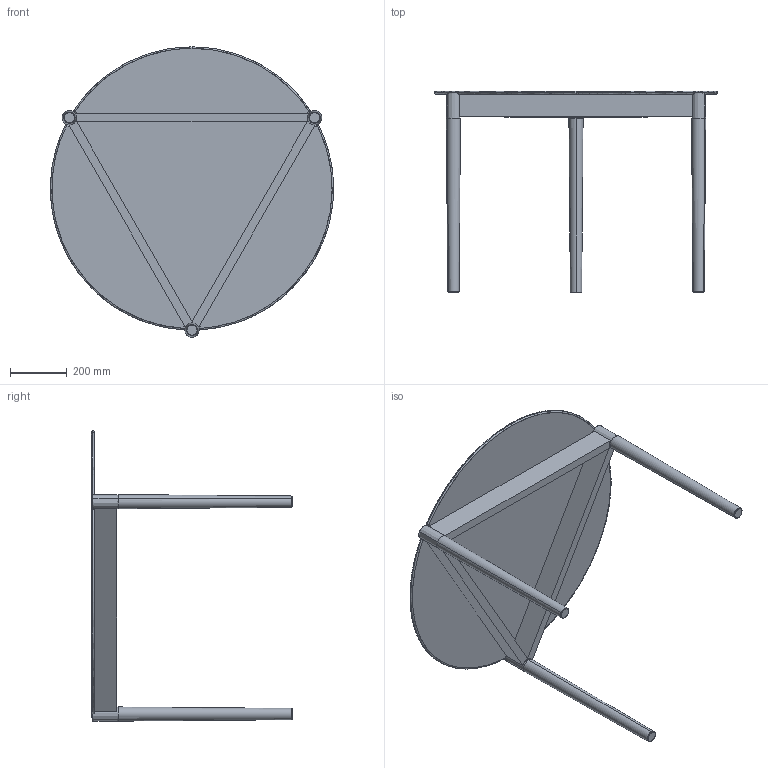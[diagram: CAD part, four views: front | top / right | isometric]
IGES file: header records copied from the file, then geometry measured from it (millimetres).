
Start section: SolidWorks IGES file using analytic representation for surfaces
Global section: file name: C:\Users\Kumagai\Desktop\sidekicks 3ds\458 Sidekicks Small Dining Table\458 Sidekicks Small Dining Table.IGS; native system: SolidWorks 2016; preprocessor: SolidWorks 2016; author: Kumagai; date: 180417.163531; units: millimetre
Bounding box: 1000 x 710 x 1025 mm (x, y, z)
Surface area: 2450846.8 mm2 (no closed solid volume)
Topology: 0 solids, 0 shells, 74 faces, 1144 edges, 1139 vertices
Faces by surface type: bspline 53, revolution 21
